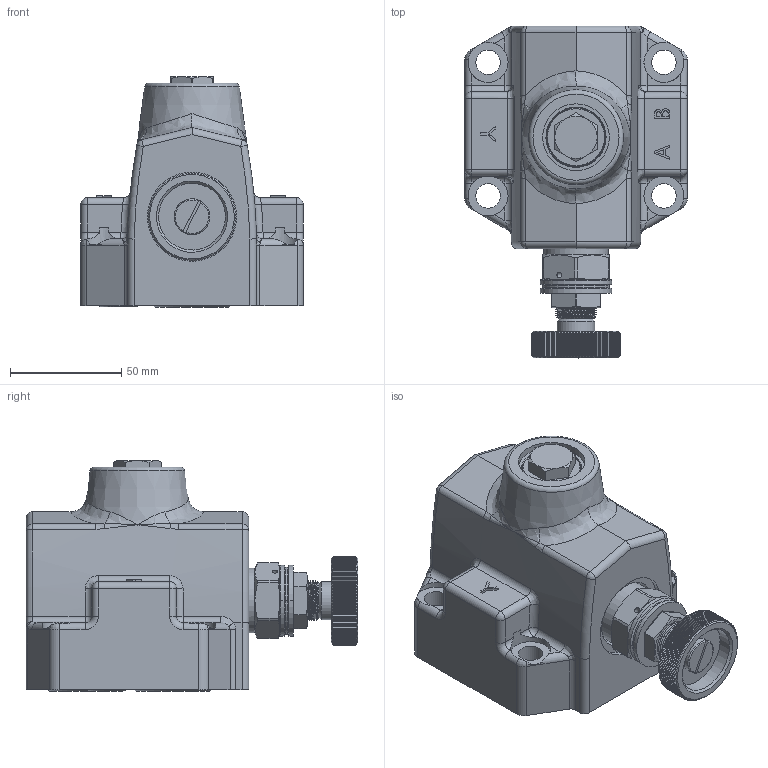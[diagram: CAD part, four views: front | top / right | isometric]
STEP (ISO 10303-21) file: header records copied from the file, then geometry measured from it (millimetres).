
FILE_DESCRIPTION(/* description */ (''),/* implementation_level */ '2;1');
FILE_NAME(/* name */ 'DR20-5-4XJ YM.stp',/* time_stamp */ '2024-06-25T15:56:37+08:00',/* author */ (''),/* organization */ (''),/* preprocessor_version */ 'ST-DEVELOPER v16.7',/* originating_system */ 'SIEMENS PLM Software NX 12.0',/* authorisation */ '');
FILE_SCHEMA (('AUTOMOTIVE_DESIGN { 1 0 10303 214 3 1 1 1 }'));
Products named in the file (1): DR-5-4XJ YM
Bounding box: 100 x 149.05 x 103.63 mm (x, y, z)
Volume: 550679.3 mm3; surface area: 114781.1 mm2
Topology: 29 solids, 31 shells, 1107 faces, 2871 edges, 1824 vertices
Faces by surface type: plane 571, cylinder 297, cone 105, bspline 70, torus 35, sphere 16, extrusion 13
Full cylindrical faces by diameter (mm): 0.9 x1, 1 x1, 2 x3, 2.5 x1, 3 x5, 4 x2, 4.2 x9, 4.5 x1, 5 x1, 5.4 x1, 5.5 x8, 6 x12, 7 x1, 7.4 x1, 7.5 x1, 9.5 x1, 10 x3, 11 x5, 11.5 x1, 11.8 x1, 12 x2, 12.1 x1, 13 x1, 13.4 x1, 14 x2, 14.2 x1, 14.6 x4, 14.8 x1, 15 x8, 15.3 x2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
Entity records: 70772 total; most frequent: CARTESIAN_POINT 46854, ORIENTED_EDGE 4830, DIRECTION 3802, EDGE_CURVE 2415, VERTEX_POINT 1676, AXIS2_PLACEMENT_3D 1547, EDGE_LOOP 1396, B_SPLINE_CURVE_WITH_KNOTS 1120
